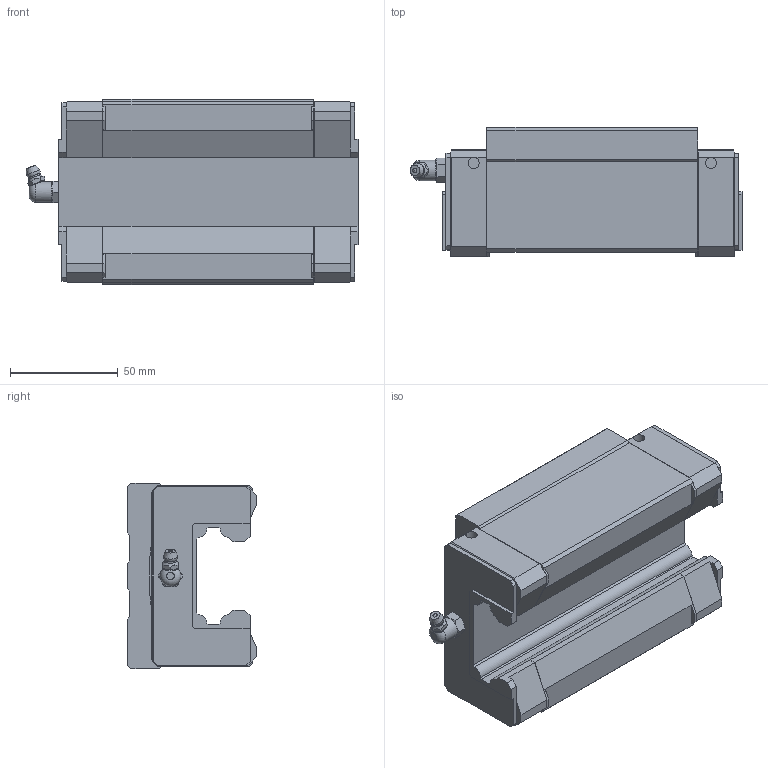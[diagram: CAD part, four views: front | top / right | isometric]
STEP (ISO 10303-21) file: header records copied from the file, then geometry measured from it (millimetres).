
FILE_DESCRIPTION(/* description */ ('STEP AP214'),/* implementation_level */ '2;1');
FILE_NAME(/* name */ 'HSR45R1SS(GK) BLOCK(B-PT1_81)',/* time_stamp */ '2023-06-01T08:10:27+02:00',/* author */ ('License CC BY-ND 4.0'),/* organization */ ('CADENAS'),/* preprocessor_version */ 'ST-DEVELOPER v19.3',/* originating_system */ 'PARTsolutions',/* authorisation */ ' ');
FILE_SCHEMA (('AUTOMOTIVE_DESIGN {1 0 10303 214 3 1 1}'));
Length unit declared in the file: millimetre
Products named in the file (3): HSR45R1SS(GK) BLOCK(B-PT1/81); hsr_ftht_B-PT1/8_grease_nipple_joint; HSR45RSSB-PT1/810R2 S
Assembly tree (2 placements, depth 2):
  HSR45R1SS(GK) BLOCK(B-PT1/81)
    hsr_ftht_B-PT1/8_grease_nipple_joint
    HSR45RSSB-PT1/810R2 S
Bounding box: 154.2 x 60 x 86 mm (x, y, z)
Volume: 483099.1 mm3; surface area: 62979.4 mm2
Topology: 2 solids, 2 shells, 227 faces, 618 edges, 399 vertices
Faces by surface type: plane 183, cone 20, cylinder 19, torus 3, sphere 2
Full cylindrical faces by diameter (mm): 5.2 x4, 8.376 x4, 9.6 x1, 10.2 x2
Entity records: 6862 total; most frequent: CARTESIAN_POINT 1311, ORIENTED_EDGE 1130, DIRECTION 1060, EDGE_CURVE 565, LINE 476, VECTOR 476, VERTEX_POINT 388, AXIS2_PLACEMENT_3D 292
